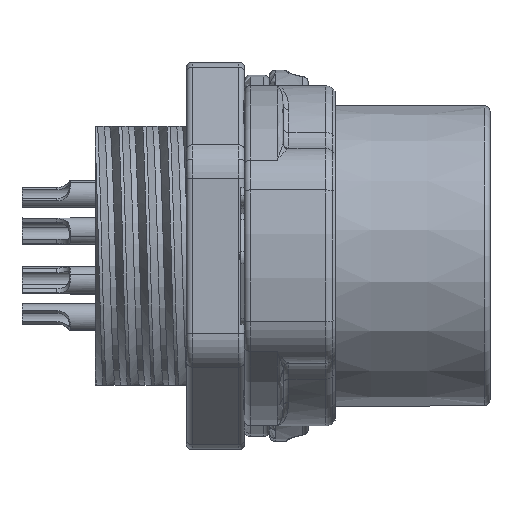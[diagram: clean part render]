
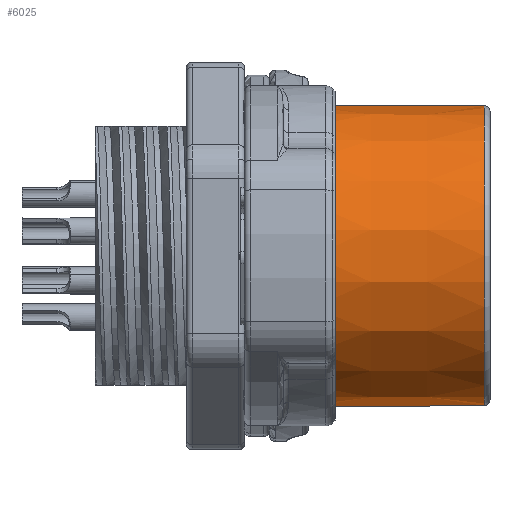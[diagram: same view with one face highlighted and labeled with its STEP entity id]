
A CAD part, front view. The second image highlights one B-rep face of the part: STEP entity #6025.
In plain terms, the highlighted conical face has half-angle 0.3 degrees and reference radius 7.75 mm.
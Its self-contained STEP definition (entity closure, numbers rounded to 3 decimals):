
#2571 = CIRCLE ( 'NONE', #40337, 7.752 ) ;
#4555 = AXIS2_PLACEMENT_3D ( 'NONE', #32021, #13559, #46889 ) ;
#5052 = DIRECTION ( 'NONE',  ( 0., 0., 1. ) ) ;
#5290 = AXIS2_PLACEMENT_3D ( 'NONE', #29224, #53643, #5052 ) ;
#6025 = ADVANCED_FACE ( 'NONE', ( #14923 ), #42866, .T. ) ;
#6750 = VECTOR ( 'NONE', #33700, 1000. ) ;
#9470 = VERTEX_POINT ( 'NONE', #40483 ) ;
#9748 = DIRECTION ( 'NONE',  ( 0., 0., -1. ) ) ;
#11061 = EDGE_CURVE ( 'NONE', #48349, #30205, #31994, .T. ) ;
#13057 = EDGE_CURVE ( 'NONE', #9470, #30205, #52999, .T. ) ;
#13559 = DIRECTION ( 'NONE',  ( 1., 0., 0. ) ) ;
#13994 = ORIENTED_EDGE ( 'NONE', *, *, #13057, .F. ) ;
#14055 = ORIENTED_EDGE ( 'NONE', *, *, #14381, .T. ) ;
#14290 = CARTESIAN_POINT ( 'NONE',  ( 0., 0., -7.75 ) ) ;
#14381 = EDGE_CURVE ( 'NONE', #9470, #39751, #2571, .T. ) ;
#14923 = FACE_OUTER_BOUND ( 'NONE', #31026, .T. ) ;
#17326 = CARTESIAN_POINT ( 'NONE',  ( -9.102, 0., 7.798 ) ) ;
#19217 = ORIENTED_EDGE ( 'NONE', *, *, #11061, .T. ) ;
#20543 = CARTESIAN_POINT ( 'NONE',  ( -9.102, 0., -7.798 ) ) ;
#25440 = DIRECTION ( 'NONE',  ( -1., 0., 0.005 ) ) ;
#28211 = CARTESIAN_POINT ( 'NONE',  ( -0.298, 0., 7.752 ) ) ;
#29224 = CARTESIAN_POINT ( 'NONE',  ( 0., 0., 0. ) ) ;
#29632 = ORIENTED_EDGE ( 'NONE', *, *, #35365, .T. ) ;
#30205 = VERTEX_POINT ( 'NONE', #20543 ) ;
#31026 = EDGE_LOOP ( 'NONE', ( #13994, #14055, #29632, #19217 ) ) ;
#31994 = CIRCLE ( 'NONE', #4555, 7.798 ) ;
#32021 = CARTESIAN_POINT ( 'NONE',  ( -9.102, 0., 0. ) ) ;
#33700 = DIRECTION ( 'NONE',  ( -1., 0., -0.005 ) ) ;
#35365 = EDGE_CURVE ( 'NONE', #39751, #48349, #39790, .T. ) ;
#35626 = CARTESIAN_POINT ( 'NONE',  ( 0., 0., 7.75 ) ) ;
#39751 = VERTEX_POINT ( 'NONE', #28211 ) ;
#39790 = LINE ( 'NONE', #35626, #44195 ) ;
#40337 = AXIS2_PLACEMENT_3D ( 'NONE', #58315, #48760, #9748 ) ;
#40483 = CARTESIAN_POINT ( 'NONE',  ( -0.298, 0., -7.752 ) ) ;
#42866 = CONICAL_SURFACE ( 'NONE', #5290, 7.75, 0.005 ) ;
#44195 = VECTOR ( 'NONE', #25440, 1000. ) ;
#46889 = DIRECTION ( 'NONE',  ( 0., 0., 1. ) ) ;
#48349 = VERTEX_POINT ( 'NONE', #17326 ) ;
#48760 = DIRECTION ( 'NONE',  ( -1., 0., 0. ) ) ;
#52999 = LINE ( 'NONE', #14290, #6750 ) ;
#53643 = DIRECTION ( 'NONE',  ( -1., 0., 0. ) ) ;
#58315 = CARTESIAN_POINT ( 'NONE',  ( -0.298, 0., 0. ) ) ;
